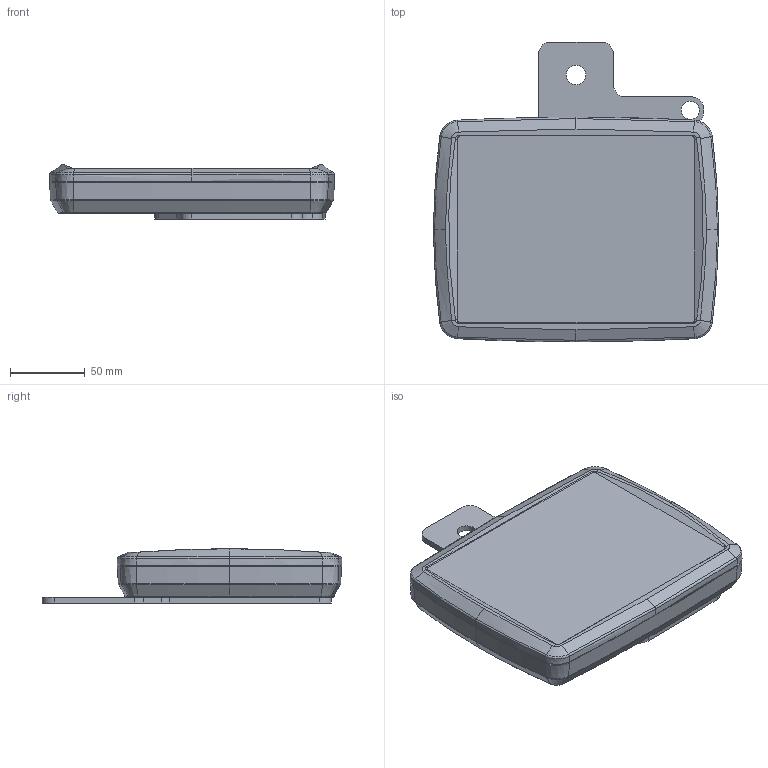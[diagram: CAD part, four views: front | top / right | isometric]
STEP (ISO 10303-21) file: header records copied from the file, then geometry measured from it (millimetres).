
FILE_DESCRIPTION(/* description */ (''),/* implementation_level */ '2;1');
FILE_NAME(/* name */ 'C:\Users\user\Documents\zactrack\Projects\zactrack PRO\Anchor PRO\AnchorPRO.stp',/* time_stamp */ '2022-08-08T16:55:55+02:00',/* author */ ('user'),/* organization */ (''),/* preprocessor_version */ 'ST-DEVELOPER v16.1',/* originating_system */ 'Autodesk Inventor 2016',/* authorisation */ '');
FILE_SCHEMA (('AUTOMOTIVE_DESIGN { 1 0 10303 214 3 1 1 }'));
Length unit declared in the file: inch
Products named in the file (3): Befestigungsblech_ManfrottoV7; TB-32611; AnchorPRO
Assembly tree (2 placements, depth 2):
  AnchorPRO
    Befestigungsblech_ManfrottoV7
    TB-32611
Bounding box: 190 x 200 x 36.2 mm (x, y, z)
Volume: 238447.5 mm3; surface area: 189503.6 mm2
Topology: 3 solids, 3 shells, 631 faces, 1603 edges, 1028 vertices
Faces by surface type: cylinder 222, cone 159, plane 154, bspline 72, torus 24
Full cylindrical faces by diameter (mm): 2.5 x16, 3.2 x2, 3.5 x8, 4.5 x4, 4.8 x2, 7 x4, 12 x1, 13 x1, 24 x1
Entity records: 23446 total; most frequent: CARTESIAN_POINT 7752, DIRECTION 3155, ORIENTED_EDGE 3112, EDGE_CURVE 1556, AXIS2_PLACEMENT_3D 1267, VERTEX_POINT 1024, EDGE_LOOP 750, CIRCLE 671
